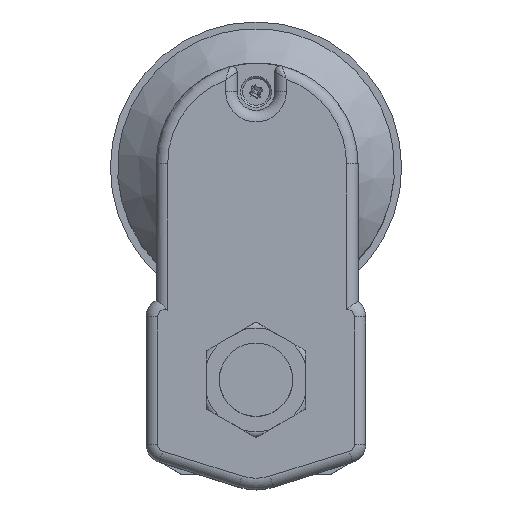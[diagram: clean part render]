
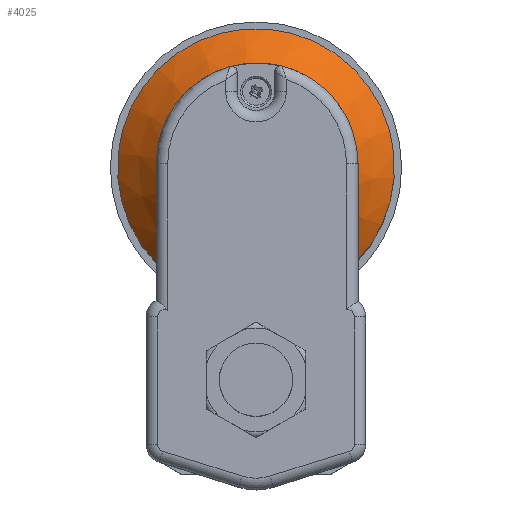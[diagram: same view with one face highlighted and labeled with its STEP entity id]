
A CAD part, top view. The second image highlights one B-rep face of the part: STEP entity #4025.
In plain terms, the highlighted conical face has half-angle 45 degrees and reference radius 48 mm.
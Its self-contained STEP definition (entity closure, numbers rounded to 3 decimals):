
#1274 = CARTESIAN_POINT ( 'NONE',  ( -27.908, 34.847, 53.5 ) ) ;
#1277 = CARTESIAN_POINT ( 'NONE',  ( -26.826, 34.768, 54.065 ) ) ;
#1278 = CARTESIAN_POINT ( 'NONE',  ( -25.733, 34.688, 54.609 ) ) ;
#1279 = CARTESIAN_POINT ( 'NONE',  ( -23.531, 34.53, 55.644 ) ) ;
#1280 = CARTESIAN_POINT ( 'NONE',  ( -22.421, 34.452, 56.137 ) ) ;
#1281 = CARTESIAN_POINT ( 'NONE',  ( -19.06, 34.223, 57.53 ) ) ;
#1282 = CARTESIAN_POINT ( 'NONE',  ( -16.779, 34.077, 58.344 ) ) ;
#1283 = CARTESIAN_POINT ( 'NONE',  ( -13.28, 33.887, 59.356 ) ) ;
#1284 = CARTESIAN_POINT ( 'NONE',  ( -12.101, 33.829, 59.657 ) ) ;
#1285 = CARTESIAN_POINT ( 'NONE',  ( -9.715, 33.725, 60.183 ) ) ;
#1286 = CARTESIAN_POINT ( 'NONE',  ( -8.505, 33.679, 60.407 ) ) ;
#1287 = CARTESIAN_POINT ( 'NONE',  ( -6.081, 33.605, 60.767 ) ) ;
#1288 = CARTESIAN_POINT ( 'NONE',  ( -4.863, 33.577, 60.903 ) ) ;
#1289 = CARTESIAN_POINT ( 'NONE',  ( -2.415, 33.538, 61.085 ) ) ;
#1290 = CARTESIAN_POINT ( 'NONE',  ( -1.188, 33.529, 61.13 ) ) ;
#1291 = CARTESIAN_POINT ( 'NONE',  ( 2.477, 33.529, 61.127 ) ) ;
#1292 = CARTESIAN_POINT ( 'NONE',  ( 4.908, 33.569, 60.942 ) ) ;
#1293 = CARTESIAN_POINT ( 'NONE',  ( 8.537, 33.68, 60.402 ) ) ;
#1294 = CARTESIAN_POINT ( 'NONE',  ( 9.746, 33.726, 60.177 ) ) ;
#1295 = CARTESIAN_POINT ( 'NONE',  ( 12.13, 33.83, 59.65 ) ) ;
#1296 = CARTESIAN_POINT ( 'NONE',  ( 13.307, 33.888, 59.348 ) ) ;
#1297 = CARTESIAN_POINT ( 'NONE',  ( 16.801, 34.078, 58.337 ) ) ;
#1298 = CARTESIAN_POINT ( 'NONE',  ( 19.078, 34.224, 57.523 ) ) ;
#1299 = CARTESIAN_POINT ( 'NONE',  ( 23.55, 34.529, 55.668 ) ) ;
#1300 = CARTESIAN_POINT ( 'NONE',  ( 25.745, 34.688, 54.629 ) ) ;
#1301 = CARTESIAN_POINT ( 'NONE',  ( 27.908, 34.847, 53.5 ) ) ;
#1313 = CARTESIAN_POINT ( 'NONE',  ( 0., 73.9, 53.5 ) ) ;
#1318 = CARTESIAN_POINT ( 'NONE',  ( 0., 73.9, 67.5 ) ) ;
#1326 = DIRECTION ( 'NONE',  ( 0., 0., 1. ) ) ;
#1327 = DIRECTION ( 'NONE',  ( 0., -1., 0. ) ) ;
#1328 = DIRECTION ( 'NONE',  ( 0., 0., 1. ) ) ;
#1329 = DIRECTION ( 'NONE',  ( 0., -1., 0. ) ) ;
#3073 = CARTESIAN_POINT ( 'NONE',  ( -27.908, 34.847, 53.5 ) ) ;
#3333 = CARTESIAN_POINT ( 'NONE',  ( 27.908, 34.847, 53.5 ) ) ;
#3459 = VERTEX_POINT ( 'NONE', #3460 ) ;
#3460 = CARTESIAN_POINT ( 'NONE',  ( 0., 39.9, 67.5 ) ) ;
#4025 = ADVANCED_FACE ( 'NONE', ( #4866, #4863 ), #4864, .T. ) ;
#4549 = B_SPLINE_CURVE_WITH_KNOTS ( 'NONE', 3,
 ( #1274, #1277, #1278, #1279, #1280, #1281, #1282, #1283, #1284, #1285, #1286, #1287, #1288, #1289, #1290, #1291, #1292, #1293, #1294, #1295, #1296, #1297, #1298, #1299, #1300, #1301 ),
 .UNSPECIFIED., .F., .F.,
 ( 4, 2, 2, 2, 2, 2, 2, 2, 2, 2, 2, 2, 4 ),
 ( 0., 0.004, 0.007, 0.015, 0.018, 0.022, 0.026, 0.029, 0.037, 0.04, 0.044, 0.051, 0.059 ),
 .UNSPECIFIED. ) ;
#4617 = EDGE_LOOP ( 'NONE', ( #7235 ) ) ;
#4625 = EDGE_LOOP ( 'NONE', ( #7236, #7237 ) ) ;
#4863 = FACE_OUTER_BOUND ( 'NONE', #4625, .T. ) ;
#4864 = CONICAL_SURFACE ( 'NONE', #6821, 48., 0.785 ) ;
#4866 = FACE_BOUND ( 'NONE', #4617, .T. ) ;
#5989 = EDGE_CURVE ( 'NONE', #8040, #8300, #4549, .T. ) ;
#6000 = EDGE_CURVE ( 'NONE', #8300, #8040, #9360, .T. ) ;
#6001 = EDGE_CURVE ( 'NONE', #3459, #3459, #9362, .T. ) ;
#6821 = AXIS2_PLACEMENT_3D ( 'NONE', #8769, #8770, #8758 ) ;
#7235 = ORIENTED_EDGE ( 'NONE', *, *, #6001, .F. ) ;
#7236 = ORIENTED_EDGE ( 'NONE', *, *, #6000, .T. ) ;
#7237 = ORIENTED_EDGE ( 'NONE', *, *, #5989, .T. ) ;
#7602 = AXIS2_PLACEMENT_3D ( 'NONE', #1313, #1326, #1327 ) ;
#7605 = AXIS2_PLACEMENT_3D ( 'NONE', #1318, #1328, #1329 ) ;
#8040 = VERTEX_POINT ( 'NONE', #3073 ) ;
#8300 = VERTEX_POINT ( 'NONE', #3333 ) ;
#8758 = DIRECTION ( 'NONE',  ( 0., 1., 0. ) ) ;
#8769 = CARTESIAN_POINT ( 'NONE',  ( 0., 73.9, 53.5 ) ) ;
#8770 = DIRECTION ( 'NONE',  ( 0., 0., -1. ) ) ;
#9360 = CIRCLE ( 'NONE', #7602, 48. ) ;
#9362 = CIRCLE ( 'NONE', #7605, 34. ) ;
